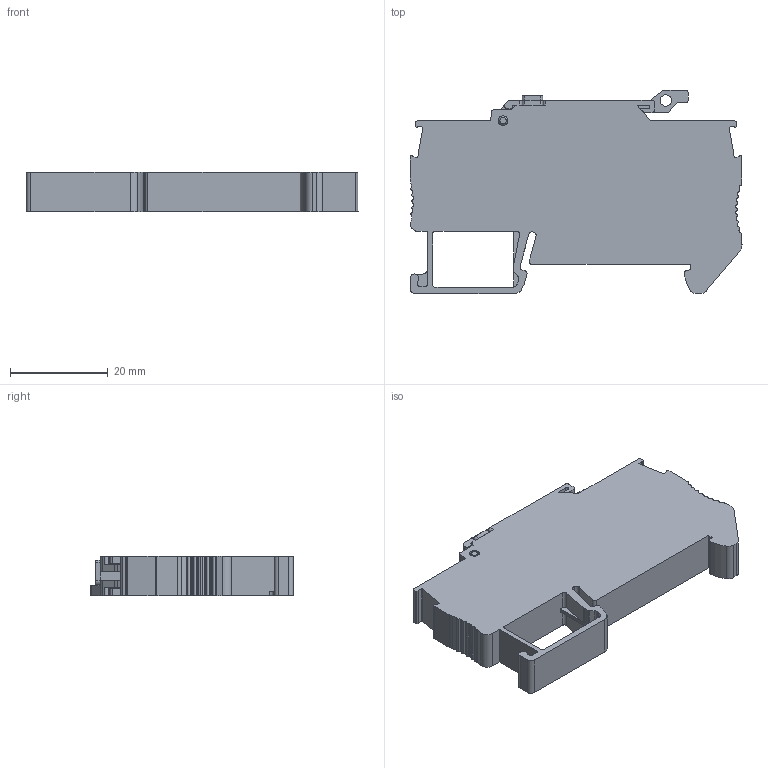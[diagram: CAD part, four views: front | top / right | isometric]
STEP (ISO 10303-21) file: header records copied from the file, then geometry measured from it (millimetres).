
FILE_DESCRIPTION(/* description */ (''),/* implementation_level */ '2;1');
FILE_NAME(/* name */ 'UPT-4RD-C-LED60 ASSY.stp',/* time_stamp */ '2024-04-26T16:57:53+08:00',/* author */ (''),/* organization */ (''),/* preprocessor_version */ 'ST-DEVELOPER v16.7',/* originating_system */ 'SIEMENS PLM Software NX 12.0',/* authorisation */ '');
FILE_SCHEMA (('AUTOMOTIVE_DESIGN { 1 0 10303 214 3 1 1 1 }'));
Length unit declared in the file: millimetre
Products named in the file (1): Admi0EB4BAB8iyp2
Bounding box: 67.8 x 41.5 x 8.15 mm (x, y, z)
Volume: 14688.5 mm3; surface area: 9559.9 mm2
Topology: 1 solids, 6 shells, 1139 faces, 3289 edges, 2140 vertices
Faces by surface type: plane 690, cylinder 310, extrusion 68, cone 47, torus 16, bspline 4, sphere 4
Entity records: 45146 total; most frequent: CARTESIAN_POINT 8159, ORIENTED_EDGE 6554, DIRECTION 5883, EDGE_CURVE 3277, VECTOR 2403, LINE 2335, VERTEX_POINT 2142, AXIS2_PLACEMENT_3D 1740
